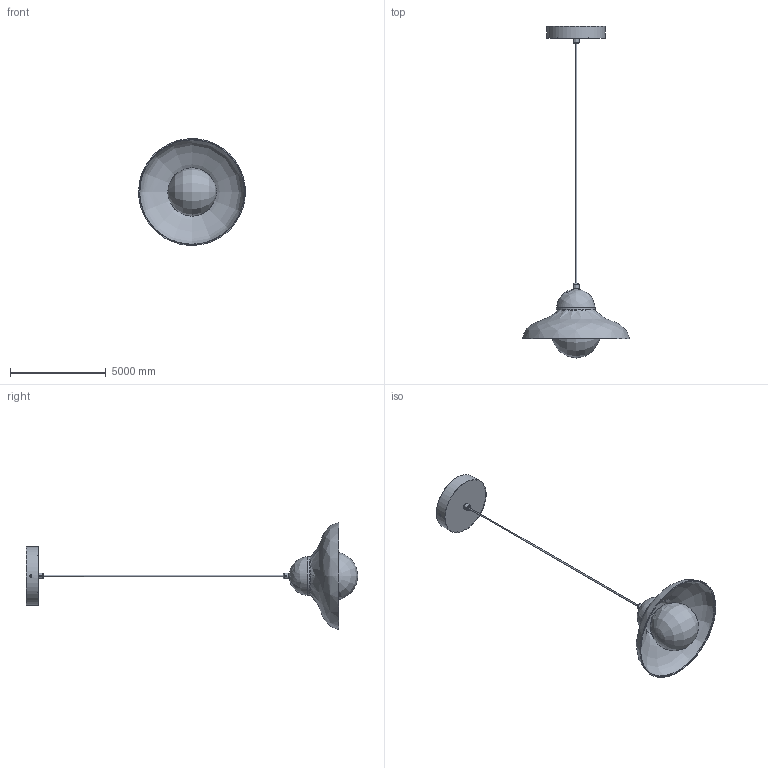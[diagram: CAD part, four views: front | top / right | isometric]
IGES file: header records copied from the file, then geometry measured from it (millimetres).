
Global section: file name: Edmund Pendant Light; native system: AutoCAD 2022 - 简体中文 (Simplified Chinese),62HAuto; preprocessor: desk Translation Framework DWG producer (atf_dwg_producer); organization: unknown; date: 20260118.110708; units: inch
Bounding box: 5586.8 x 17365.51 x 5583.72 mm (x, y, z)
Volume: 3238648850 mm3; surface area: 165571291.4 mm2
Topology: 13 solids, 13 shells, 127 faces, 317 edges, 221 vertices
Faces by surface type: bspline 127
